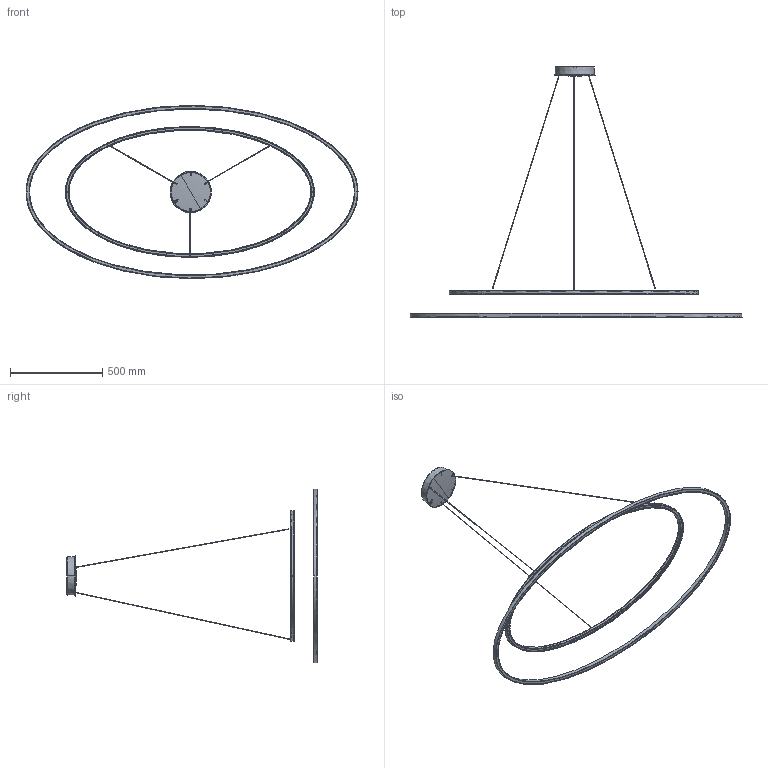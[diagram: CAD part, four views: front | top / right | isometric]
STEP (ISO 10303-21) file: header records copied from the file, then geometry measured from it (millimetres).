
FILE_DESCRIPTION (( 'STEP AP214' ), '1' );
FILE_NAME ('3D_ELLISSE_PENDANT_DOUBLE_MEGA.STEP', '2020-09-29T12:08:32', ( 'User' ), ( 'Hewlett-Packard Company' ), 'SwSTEP 2.0', 'SolidWorks 2016', '' );
FILE_SCHEMA (( 'AUTOMOTIVE_DESIGN' ));
Length unit declared in the file: millimetre
Products named in the file (7): Group3^3D_ELLISSE_PENDANT_MAJOR; Group1^3D_ELLISSE_PENDANT_MAJOR; Group2^3D_ELLISSE_PENDANT_MAJOR; 052COM702300_COPERCHIO ROSONE_6 TAGLI + FORI LATERALI; BASE ROSONE SEMPLIFICATO_ROSONE; CORPO ELLISSE MEGA; 3D_ELLISSE_PENDANT_DOUBLE_MEGA
Assembly tree (6 placements, depth 2):
  3D_ELLISSE_PENDANT_DOUBLE_MEGA
    CORPO ELLISSE MEGA
    BASE ROSONE SEMPLIFICATO_ROSONE
    052COM702300_COPERCHIO ROSONE_6 TAGLI + FORI LATERALI
    Group2^3D_ELLISSE_PENDANT_MAJOR
    Group1^3D_ELLISSE_PENDANT_MAJOR
    Group3^3D_ELLISSE_PENDANT_MAJOR
Bounding box: 1799.63 x 1359.11 x 939.63 mm (x, y, z)
Volume: 3899411.6 mm3; surface area: 1105414.6 mm2
Topology: 10 solids, 10 shells, 538 faces, 1568 edges, 1058 vertices
Faces by surface type: cylinder 252, plane 166, bspline 105, cone 15
Entity records: 34607 total; most frequent: CARTESIAN_POINT 16534, ORIENTED_EDGE 3136, DIRECTION 2547, EDGE_CURVE 1568, VERTEX_POINT 1058, AXIS2_PLACEMENT_3D 942, LINE 663, VECTOR 663
